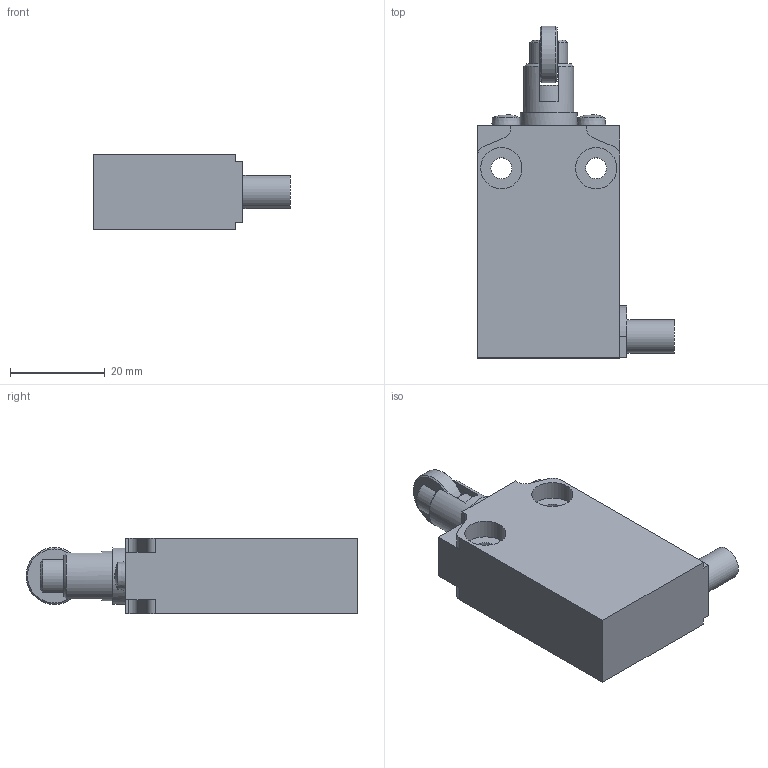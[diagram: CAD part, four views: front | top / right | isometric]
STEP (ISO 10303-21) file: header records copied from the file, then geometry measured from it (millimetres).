
FILE_DESCRIPTION(/* description */ (''),/* implementation_level */ '2;1');
FILE_NAME(/* name */ 'C:\Users\servizio.tecnico\Desktop\CADENAS\3D\EP1_STP\STP_EP1_G15U.stp',/* time_stamp */ '2017-08-31T16:21:50+02:00',/* author */ ('servizio.tecnico'),/* organization */ (''),/* preprocessor_version */ 'ST-DEVELOPER v16.1',/* originating_system */ 'Autodesk Inventor 2016',/* authorisation */ '');
FILE_SCHEMA (('AUTOMOTIVE_DESIGN { 1 0 10303 214 3 1 1 }'));
Length unit declared in the file: millimetre
Products named in the file (3): Product; EP1G15; BASE ASSI 
Assembly tree (2 placements, depth 3):
  BASE ASSI 
    EP1G15
      Product
Bounding box: 41.5 x 70 x 16 mm (x, y, z)
Volume: 23904.6 mm3; surface area: 8794.4 mm2
Topology: 4 solids, 4 shells, 109 faces, 271 edges, 177 vertices
Faces by surface type: plane 62, cylinder 31, cone 12, sphere 2, torus 2
Full cylindrical faces by diameter (mm): 4.4 x2, 5.6 x2, 7 x1, 7.95 x1, 8.05 x1, 8.7 x4, 10.5 x1, 12 x2
Entity records: 3164 total; most frequent: CARTESIAN_POINT 550, DIRECTION 546, ORIENTED_EDGE 476, EDGE_CURVE 238, AXIS2_PLACEMENT_3D 210, VERTEX_POINT 166, EDGE_LOOP 142, LINE 126
